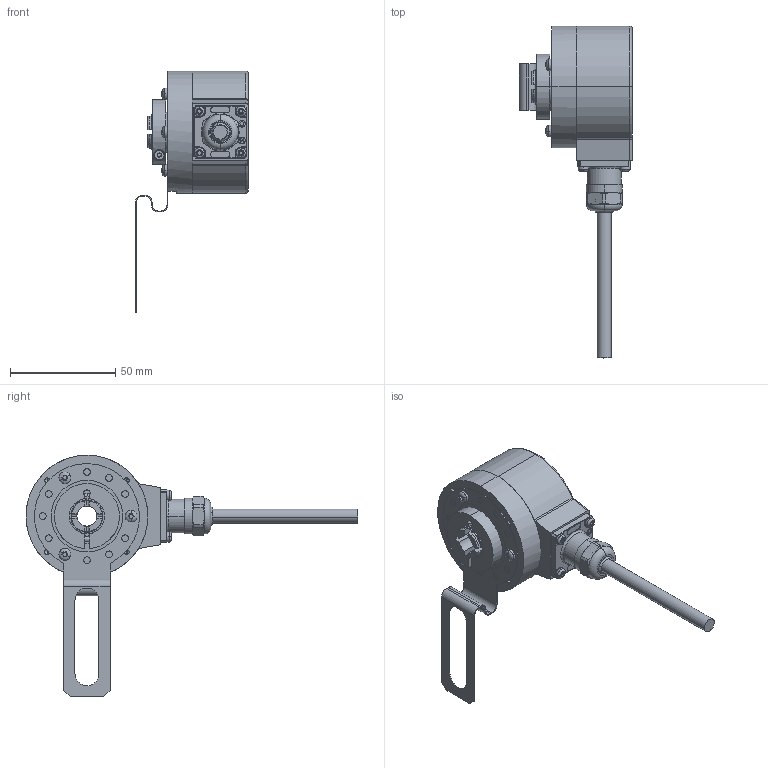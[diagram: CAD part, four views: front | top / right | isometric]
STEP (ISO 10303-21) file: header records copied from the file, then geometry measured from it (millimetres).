
FILE_DESCRIPTION (( 'STEP AP203' ), '1' );
FILE_NAME ('K58I.OXX.XXXXX.XH2452A.6XR11.XXXX.step', '2025-12-08T14:59:12', ( '' ), ( '' ), 'SwSTEP 2.0', 'SolidWorks 2021', '' );
FILE_SCHEMA (( 'CONFIG_CONTROL_DESIGN' ));
Length unit declared in the file: millimetre
Products named in the file (1): K58I.OXX.XXXXX.XH2452A.6XR11.XXXX
Bounding box: 53.79 x 158 x 115 mm (x, y, z)
Volume: 116564.9 mm3; surface area: 45915.9 mm2
Topology: 11 solids, 11 shells, 805 faces, 2053 edges, 1289 vertices
Faces by surface type: cylinder 389, plane 235, cone 77, bspline 46, torus 42, sphere 16
Entity records: 27678 total; most frequent: CARTESIAN_POINT 8162, DIRECTION 4149, ORIENTED_EDGE 4078, EDGE_CURVE 2039, AXIS2_PLACEMENT_3D 1624, VERTEX_POINT 1289, VECTOR 901, LINE 901
